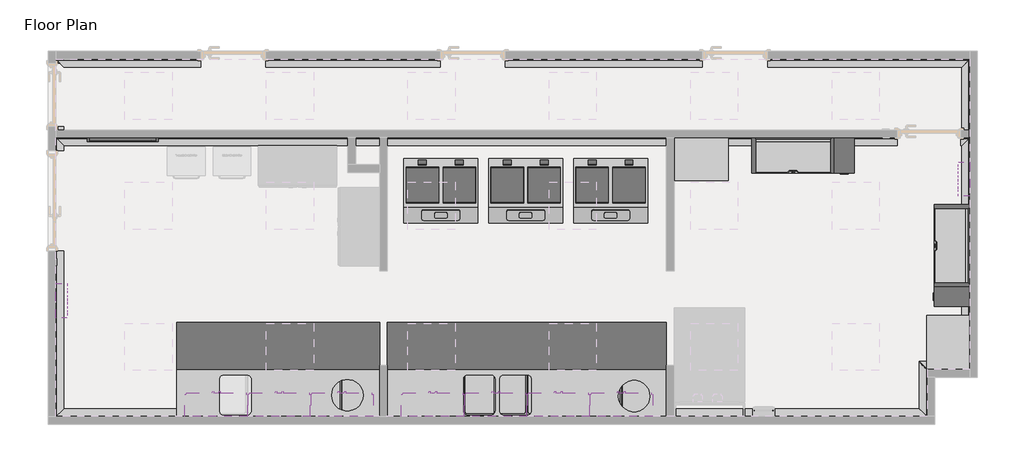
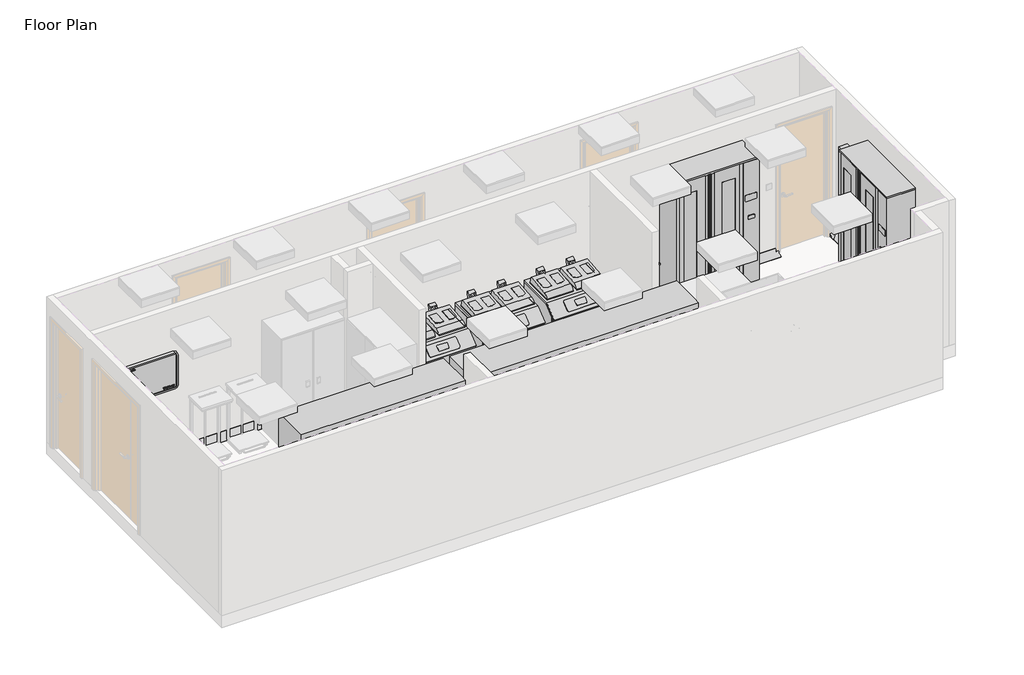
# One storey, part 2 of 2: 37 proxies.
"""IFC4 building model written with IfcOpenShell, lengths in millimetres."""

from ifc_helpers import new_model, si_unit, point, frame, frame_2d, origin, place, context, project, spatial, polyline, circle_curve, ellipse_curve, trimmed, segment, composite_curve, outline, extrude, transform, mapped, element, save
from ifc_brep_helpers import plane_surface, revolved_surface, advanced_brep
from components import generic_models_7e8e4800, generic_models_96e959f5, generic_models_4d1d25b3, generic_models_42823711, generic_models_1ffc3738, generic_models_cf329d1a, generic_models_7410f563, generic_models_fa798d0b, generic_models_1d7c5861, generic_models_08ebdc04, generic_models_c0ddf919, type_1_d860b051, type_1_565dec3e

model = new_model("IFC4")

# Units and contexts
model_context = context("Model", 3, world=origin())
ifc_project = project(units=[si_unit("LENGTHUNIT", "METRE", prefix="MILLI")], contexts=[model_context])

# Site, building, storey
site = spatial("IfcSite", under=ifc_project)
building = spatial("IfcBuilding", under=site)
storey = spatial("IfcBuildingStorey", under=building, Name="Floor Plan", Elevation=0.0)

# Proxies
placement = place(None, origin())
element("IfcBuildingElementProxy", 1, Name="Wall Sweeps", at=placement, inside=storey, context=model_context, shape_type="AdvancedBrep", body=[
    advanced_brep(
    [(4505.0, 4967.0, 0.0), (4405.0, 4867.0, 0.0), (4405.0, 4867.0, 10.0), (4495.0, 4957.0, 100.0), (4505.0, 4967.0, 100.0), (4505.0, 1015.0, 0.0), (4505.0, 1015.0, 100.0), (4495.0, 1025.0, 100.0), (4405.0, 1115.0, 10.0), (4405.0, 1115.0, 0.0)],
    [
        (0, 1),
        (1, 2),
        (2, 3, ellipse_curve(frame((4405.0, 4867.0, 100.0), z_axis=(0.7071067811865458, -0.7071067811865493, 0.0), x_axis=(-0.7071067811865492, -0.7071067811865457, 0.0)), 127.2792206, 90.0)),
        (3, 4),
        (4, 0),
        (5, 6),
        (6, 7),
        (7, 8, ellipse_curve(frame((4405.0, 1115.0, 100.0), z_axis=(0.7071067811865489, 0.7071067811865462, 0.0), x_axis=(0.7071067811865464, -0.7071067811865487, 0.0)), 127.2792206, 90.0)),
        (8, 9),
        (9, 5),
        (0, 5),
        (9, 1),
        (8, 2),
        (7, 3),
        (6, 4),
    ],
    [
        plane_surface(frame((4505.0, 4967.0, 304.8), z_axis=(-0.7071067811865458, 0.7071067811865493, 0.0), x_axis=(-0.7071067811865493, -0.7071067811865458, 0.0))),
        plane_surface(frame((4505.0, 1015.0, 304.8), z_axis=(-0.7071067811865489, -0.7071067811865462, 0.0), x_axis=(-0.7071067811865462, 0.7071067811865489, 0.0))),
        plane_surface(frame((4505.0, 4967.0, 0.0), z_axis=(0.0, 0.0, -1.0), x_axis=(0.0, -1.0, 0.0))),
        plane_surface(frame((4405.0, 4867.0, 0.0), z_axis=(-1.0, 0.0, 0.0), x_axis=(0.0, -1.0, 0.0))),
        revolved_surface(polyline([(4315.0, 1025.0, 100.0), (4315.0, 4957.0, 100.0)]), (4405.0, 4967.0, 100.0), (0.0, -1.0, 0.0)),
        plane_surface(frame((4495.0, 4957.0, 100.0), z_axis=(0.0, 0.0, 1.0), x_axis=(0.0, -1.0, 0.0))),
        plane_surface(frame((4505.0, 4967.0, 100.0), z_axis=(1.0, 0.0, 0.0), x_axis=(0.0, -1.0, 0.0))),
    ],
    [
        (0, [[1, 2, 3, 4, 5]]),
        (1, [[6, 7, 8, 9, 10]]),
        (2, [[-1, 11, -10, 12]]),
        (3, [[-2, -12, -9, 13]]),
        (4, [[-3, -13, -8, 14]]),
        (5, [[-4, -14, -7, 15]]),
        (6, [[-5, -15, -6, -11]]),
    ],
),
])
element("IfcBuildingElementProxy", 2, Name="Wall Sweeps", at=placement, inside=storey, context=model_context, shape_type="AdvancedBrep", body=[
    advanced_brep(
    [(3963.0, 415.0, 0.0), (3863.0, 515.0, 0.0), (3863.0, 515.0, 10.0), (3953.0, 425.0, 100.0), (3963.0, 415.0, 100.0), (-7124.0, 415.0, 0.0), (-7124.0, 415.0, 100.0), (-7114.0, 425.0, 100.0), (-7024.0, 515.0, 10.0), (-7024.0, 515.0, 0.0)],
    [
        (0, 1),
        (1, 2),
        (2, 3, ellipse_curve(frame((3863.0, 515.0, 100.0), z_axis=(-0.7071067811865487, -0.7071067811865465, 0.0), x_axis=(-0.7071067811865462, 0.7071067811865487, 0.0)), 127.2792206, 90.0)),
        (3, 4),
        (4, 0),
        (5, 6),
        (6, 7),
        (7, 8, ellipse_curve(frame((-7024.0, 515.0, 100.0), z_axis=(0.7071067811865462, -0.7071067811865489, 0.0), x_axis=(-0.7071067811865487, -0.7071067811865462, 0.0)), 127.2792206, 90.0)),
        (8, 9),
        (9, 5),
        (0, 5),
        (9, 1),
        (8, 2),
        (7, 3),
        (6, 4),
    ],
    [
        plane_surface(frame((3963.0, 415.0, 304.8), z_axis=(0.7071067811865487, 0.7071067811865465, 0.0), x_axis=(-0.7071067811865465, 0.7071067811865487, 0.0))),
        plane_surface(frame((-7124.0, 415.0, 304.8), z_axis=(-0.7071067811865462, 0.7071067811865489, 0.0), x_axis=(0.7071067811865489, 0.7071067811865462, 0.0))),
        plane_surface(frame((3963.0, 415.0, 0.0), z_axis=(0.0, 0.0, -1.0), x_axis=(-1.0, 0.0, 0.0))),
        plane_surface(frame((3863.0, 515.0, 0.0), z_axis=(0.0, 1.0, 0.0), x_axis=(-1.0, 0.0, 0.0))),
        revolved_surface(polyline([(-7114.0, 605.0, 100.0), (3953.0, 605.0, 100.0)]), (3963.0, 515.0, 100.0), (-1.0, 0.0, 0.0)),
        plane_surface(frame((3953.0, 425.0, 100.0), z_axis=(0.0, 0.0, 1.0), x_axis=(-1.0, 0.0, 0.0))),
        plane_surface(frame((3963.0, 415.0, 100.0), z_axis=(0.0, -1.0, 0.0), x_axis=(-1.0, 0.0, 0.0))),
    ],
    [
        (0, [[1, 2, 3, 4, 5]]),
        (1, [[6, 7, 8, 9, 10]]),
        (2, [[-1, 11, -10, 12]]),
        (3, [[-2, -12, -9, 13]]),
        (4, [[-3, -13, -8, 14]]),
        (5, [[-4, -14, -7, 15]]),
        (6, [[-5, -15, -6, -11]]),
    ],
),
])
element("IfcBuildingElementProxy", 3, Name="Wall Sweeps", at=placement, inside=storey, context=model_context, shape_type="SweptSolid", body=[
    extrude(outline(composite_curve([segment(polyline([(0.0, -7124.0), (0.0, -7024.0), (10.0, -7024.0)]), True, "CONTINUOUS"), segment(trimmed(circle_curve(frame_2d((100.0, -7024.0)), 90.0), [point((10.0, -7024.0))], [point((100.0, -7114.0))], True, "CARTESIAN"), True, "CONTINUOUS"), segment(polyline([(100.0, -7114.0), (100.0, -7124.0), (0.0, -7124.0)]), True, "CONTINUOUS")], self_intersect=False)), frame((0.0, 415.0, 0.0), z_axis=(0.0, 1.0, 0.0), x_axis=(0.0, 0.0, 1.0)), (0.0, 0.0, 1.0), 2107.0),
    extrude(outline(composite_curve([segment(polyline([(0.0, -7124.0), (0.0, -7024.0), (10.0, -7024.0)]), True, "CONTINUOUS"), segment(trimmed(circle_curve(frame_2d((100.0, -7024.0)), 90.0), [point((10.0, -7024.0))], [point((100.0, -7114.0))], True, "CARTESIAN"), True, "CONTINUOUS"), segment(polyline([(100.0, -7114.0), (100.0, -7124.0), (0.0, -7124.0)]), True, "CONTINUOUS")], self_intersect=False)), frame((0.0, 3802.0, 0.0), z_axis=(0.0, 1.0, 0.0), x_axis=(0.0, 0.0, 1.0)), (0.0, 0.0, 1.0), 305.0),
    extrude(outline(composite_curve([segment(polyline([(0.0, -7124.0), (0.0, -7024.0), (10.0, -7024.0)]), True, "CONTINUOUS"), segment(trimmed(circle_curve(frame_2d((100.0, -7024.0)), 90.0), [point((10.0, -7024.0))], [point((100.0, -7114.0))], True, "CARTESIAN"), True, "CONTINUOUS"), segment(polyline([(100.0, -7114.0), (100.0, -7124.0), (0.0, -7124.0)]), True, "CONTINUOUS")], self_intersect=False)), frame((0.0, 4917.0, 0.0), z_axis=(0.0, 1.0, 0.0), x_axis=(0.0, 0.0, 1.0)), (0.0, 0.0, 1.0), 50.0),
])
element("IfcBuildingElementProxy", 4, Name="Wall Sweeps", at=placement, inside=storey, context=model_context, shape_type="AdvancedBrep", body=[
    advanced_brep(
    [(-7124.0, 4967.0, 0.0), (-7024.0, 4867.0, 0.0), (-7024.0, 4867.0, 10.0), (-7114.0, 4957.0, 100.0), (-7124.0, 4967.0, 100.0), (-5284.0, 4967.0, 0.0), (-5284.0, 4967.0, 100.0), (-5284.0, 4957.0, 100.0), (-5284.0, 4867.0, 10.0), (-5284.0, 4867.0, 0.0)],
    [
        (0, 1),
        (1, 2),
        (2, 3, ellipse_curve(frame((-7024.0, 4867.0, 100.0), z_axis=(0.707106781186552, 0.7071067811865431, 0.0), x_axis=(0.7071067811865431, -0.707106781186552, 0.0)), 127.2792206, 90.0)),
        (3, 4),
        (4, 0),
        (5, 6),
        (6, 7),
        (7, 8, circle_curve(frame((-5284.0, 4867.0, 100.0), z_axis=(-1.0, 0.0, 0.0), x_axis=(0.0, -1.0, 0.0)), 90.0)),
        (8, 9),
        (9, 5),
        (0, 5),
        (9, 1),
        (8, 2),
        (7, 3),
        (6, 4),
    ],
    [
        plane_surface(frame((-7124.0, 4967.0, 304.8), z_axis=(-0.707106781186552, -0.7071067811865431, 0.0), x_axis=(0.7071067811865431, -0.707106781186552, 0.0))),
        plane_surface(frame((-5284.0, 4967.0, -100.4987562), z_axis=(1.0, 0.0, 0.0), x_axis=(0.0, 1.0, 0.0))),
        plane_surface(frame((-7124.0, 4967.0, 0.0), z_axis=(0.0, 0.0, -1.0), x_axis=(1.0, 0.0, 0.0))),
        plane_surface(frame((-7024.0, 4867.0, 0.0), z_axis=(0.0, -1.0, 0.0), x_axis=(1.0, 0.0, 0.0))),
        revolved_surface(polyline([(-5284.0, 4777.0, 100.0), (-7114.0, 4777.0, 100.0)]), (-7124.0, 4867.0, 100.0), (1.0, 0.0, 0.0)),
        plane_surface(frame((-7114.0, 4957.0, 100.0), z_axis=(0.0, 0.0, 1.0), x_axis=(1.0, 0.0, 0.0))),
        plane_surface(frame((-7124.0, 4967.0, 100.0), z_axis=(0.0, 1.0, 0.0), x_axis=(1.0, 0.0, 0.0))),
    ],
    [
        (0, [[1, 2, 3, 4, 5]]),
        (1, [[6, 7, 8, 9, 10]]),
        (2, [[-1, 11, -10, 12]]),
        (3, [[-2, -12, -9, 13]]),
        (4, [[-3, -13, -8, 14]]),
        (5, [[-4, -14, -7, 15]]),
        (6, [[-5, -15, -6, -11]]),
    ],
),
    advanced_brep(
    [(-4454.0, 4967.0, 0.0), (-4454.0, 4867.0, 0.0), (-4454.0, 4867.0, 10.0), (-4454.0, 4957.0, 100.0), (-4454.0, 4967.0, 100.0), (-2235.0, 4967.0, 0.0), (-2235.0, 4967.0, 100.0), (-2235.0, 4957.0, 100.0), (-2235.0, 4867.0, 10.0), (-2235.0, 4867.0, 0.0)],
    [
        (0, 1),
        (1, 2),
        (2, 3, circle_curve(frame((-4454.0, 4867.0, 100.0), z_axis=(1.0, 0.0, 0.0), x_axis=(0.0, -1.0, 0.0)), 90.0)),
        (3, 4),
        (4, 0),
        (5, 6),
        (6, 7),
        (7, 8, circle_curve(frame((-2235.0, 4867.0, 100.0), z_axis=(-1.0, 0.0, 0.0), x_axis=(0.0, -1.0, 0.0)), 90.0)),
        (8, 9),
        (9, 5),
        (0, 5),
        (9, 1),
        (8, 2),
        (7, 3),
        (6, 4),
    ],
    [
        plane_surface(frame((-4454.0, 4967.0, -100.4987562), z_axis=(-1.0, 0.0, 0.0), x_axis=(0.0, 1.0, 0.0))),
        plane_surface(frame((-2235.0, 4967.0, -100.4987562), z_axis=(1.0, 0.0, 0.0), x_axis=(0.0, 1.0, 0.0))),
        plane_surface(frame((-4454.0, 4967.0, 0.0), z_axis=(0.0, 0.0, -1.0), x_axis=(1.0, 0.0, 0.0))),
        plane_surface(frame((-4454.0, 4867.0, 0.0), z_axis=(0.0, -1.0, 0.0), x_axis=(1.0, 0.0, 0.0))),
        revolved_surface(polyline([(-2235.0, 4777.0, 100.0), (-4454.0, 4777.0, 100.0)]), (-4454.0, 4867.0, 100.0), (1.0, 0.0, 0.0)),
        plane_surface(frame((-4454.0, 4957.0, 100.0), z_axis=(0.0, 0.0, 1.0), x_axis=(1.0, 0.0, 0.0))),
        plane_surface(frame((-4454.0, 4967.0, 100.0), z_axis=(0.0, 1.0, 0.0), x_axis=(1.0, 0.0, 0.0))),
    ],
    [
        (0, [[1, 2, 3, 4, 5]]),
        (1, [[6, 7, 8, 9, 10]]),
        (2, [[-1, 11, -10, 12]]),
        (3, [[-2, -12, -9, 13]]),
        (4, [[-3, -13, -8, 14]]),
        (5, [[-4, -14, -7, 15]]),
        (6, [[-5, -15, -6, -11]]),
    ],
),
    advanced_brep(
    [(-1405.0, 4967.0, 0.0), (-1405.0, 4867.0, 0.0), (-1405.0, 4867.0, 10.0), (-1405.0, 4957.0, 100.0), (-1405.0, 4967.0, 100.0), (1105.0, 4967.0, 0.0), (1105.0, 4967.0, 100.0), (1105.0, 4957.0, 100.0), (1105.0, 4867.0, 10.0), (1105.0, 4867.0, 0.0)],
    [
        (0, 1),
        (1, 2),
        (2, 3, circle_curve(frame((-1405.0, 4867.0, 100.0), z_axis=(1.0, 0.0, 0.0), x_axis=(0.0, -1.0, 0.0)), 90.0)),
        (3, 4),
        (4, 0),
        (5, 6),
        (6, 7),
        (7, 8, circle_curve(frame((1105.0, 4867.0, 100.0), z_axis=(-1.0, 0.0, 0.0), x_axis=(0.0, -1.0, 0.0)), 90.0)),
        (8, 9),
        (9, 5),
        (0, 5),
        (9, 1),
        (8, 2),
        (7, 3),
        (6, 4),
    ],
    [
        plane_surface(frame((-1405.0, 4967.0, -100.4987562), z_axis=(-1.0, 0.0, 0.0), x_axis=(0.0, 1.0, 0.0))),
        plane_surface(frame((1105.0, 4967.0, -100.4987562), z_axis=(1.0, 0.0, 0.0), x_axis=(0.0, 1.0, 0.0))),
        plane_surface(frame((-1405.0, 4967.0, 0.0), z_axis=(0.0, 0.0, -1.0), x_axis=(1.0, 0.0, 0.0))),
        plane_surface(frame((-1405.0, 4867.0, 0.0), z_axis=(0.0, -1.0, 0.0), x_axis=(1.0, 0.0, 0.0))),
        revolved_surface(polyline([(1105.0, 4777.0, 100.0), (-1405.0, 4777.0, 100.0)]), (-1405.0, 4867.0, 100.0), (1.0, 0.0, 0.0)),
        plane_surface(frame((-1405.0, 4957.0, 100.0), z_axis=(0.0, 0.0, 1.0), x_axis=(1.0, 0.0, 0.0))),
        plane_surface(frame((-1405.0, 4967.0, 100.0), z_axis=(0.0, 1.0, 0.0), x_axis=(1.0, 0.0, 0.0))),
    ],
    [
        (0, [[1, 2, 3, 4, 5]]),
        (1, [[6, 7, 8, 9, 10]]),
        (2, [[-1, 11, -10, 12]]),
        (3, [[-2, -12, -9, 13]]),
        (4, [[-3, -13, -8, 14]]),
        (5, [[-4, -14, -7, 15]]),
        (6, [[-5, -15, -6, -11]]),
    ],
),
    advanced_brep(
    [(1935.0, 4967.0, 0.0), (1935.0, 4867.0, 0.0), (1935.0, 4867.0, 10.0), (1935.0, 4957.0, 100.0), (1935.0, 4967.0, 100.0), (4505.0, 4967.0, 0.0), (4505.0, 4967.0, 100.0), (4495.0, 4957.0, 100.0), (4405.0, 4867.0, 10.0), (4405.0, 4867.0, 0.0)],
    [
        (0, 1),
        (1, 2),
        (2, 3, circle_curve(frame((1935.0, 4867.0, 100.0), z_axis=(1.0, 0.0, 0.0), x_axis=(0.0, -1.0, 0.0)), 90.0)),
        (3, 4),
        (4, 0),
        (5, 6),
        (6, 7),
        (7, 8, ellipse_curve(frame((4405.0, 4867.0, 100.0), z_axis=(-0.7071067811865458, 0.7071067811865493, 0.0), x_axis=(0.7071067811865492, 0.7071067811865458, 0.0)), 127.2792206, 90.0)),
        (8, 9),
        (9, 5),
        (0, 5),
        (9, 1),
        (8, 2),
        (7, 3),
        (6, 4),
    ],
    [
        plane_surface(frame((1935.0, 4967.0, -100.4987562), z_axis=(-1.0, 0.0, 0.0), x_axis=(0.0, 1.0, 0.0))),
        plane_surface(frame((4505.0, 4967.0, 304.8), z_axis=(0.7071067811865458, -0.7071067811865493, 0.0), x_axis=(-0.7071067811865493, -0.7071067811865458, 0.0))),
        plane_surface(frame((1935.0, 4967.0, 0.0), z_axis=(0.0, 0.0, -1.0), x_axis=(1.0, 0.0, 0.0))),
        plane_surface(frame((1935.0, 4867.0, 0.0), z_axis=(0.0, -1.0, 0.0), x_axis=(1.0, 0.0, 0.0))),
        revolved_surface(polyline([(4495.0, 4777.0, 100.0), (1935.0, 4777.0, 100.0)]), (1935.0, 4867.0, 100.0), (1.0, 0.0, 0.0)),
        plane_surface(frame((1935.0, 4957.0, 100.0), z_axis=(0.0, 0.0, 1.0), x_axis=(1.0, 0.0, 0.0))),
        plane_surface(frame((1935.0, 4967.0, 100.0), z_axis=(0.0, 1.0, 0.0), x_axis=(1.0, 0.0, 0.0))),
    ],
    [
        (0, [[1, 2, 3, 4, 5]]),
        (1, [[6, 7, 8, 9, 10]]),
        (2, [[-1, 11, -10, 12]]),
        (3, [[-2, -12, -9, 13]]),
        (4, [[-3, -13, -8, 14]]),
        (5, [[-4, -14, -7, 15]]),
        (6, [[-5, -15, -6, -11]]),
    ],
),
])
element("IfcBuildingElementProxy", 5, Name="Wall Sweeps", at=placement, inside=storey, context=model_context, shape_type="SweptSolid", body=[
    extrude(outline(composite_curve([segment(polyline([(3967.0, 0.0), (3867.0, 0.0), (3867.0, 10.0)]), True, "CONTINUOUS"), segment(trimmed(circle_curve(frame_2d((3867.0, 100.0)), 90.0), [point((3867.0, 10.0))], [point((3957.0, 100.0))], True, "CARTESIAN"), True, "CONTINUOUS"), segment(polyline([(3957.0, 100.0), (3967.0, 100.0), (3967.0, 0.0)]), True, "CONTINUOUS")], self_intersect=False)), frame((-7124.0, 0.0, 0.0), z_axis=(1.0, 0.0, 0.0), x_axis=(0.0, 1.0, 0.0)), (0.0, 0.0, 1.0), 10709.0),
    extrude(outline(composite_curve([segment(polyline([(3967.0, 0.0), (3867.0, 0.0), (3867.0, 10.0)]), True, "CONTINUOUS"), segment(trimmed(circle_curve(frame_2d((3867.0, 100.0)), 90.0), [point((3867.0, 10.0))], [point((3957.0, 100.0))], True, "CARTESIAN"), True, "CONTINUOUS"), segment(polyline([(3957.0, 100.0), (3967.0, 100.0), (3967.0, 0.0)]), True, "CONTINUOUS")], self_intersect=False)), frame((4395.0, 0.0, 0.0), z_axis=(1.0, 0.0, 0.0), x_axis=(0.0, 1.0, 0.0)), (0.0, 0.0, 1.0), 100.0),
])
element("IfcBuildingElementProxy", 6, Name="Wall Sweeps", at=placement, inside=storey, context=model_context, shape_type="AdvancedBrep", body=[
    advanced_brep(
    [(4505.0, 1015.0, 0.0), (4405.0, 1115.0, 0.0), (4405.0, 1115.0, 10.0), (4495.0, 1025.0, 100.0), (4505.0, 1015.0, 100.0), (3963.0, 1015.0, 0.0), (3963.0, 1015.0, 100.0), (3953.0, 1025.0, 100.0), (3863.0, 1115.0, 10.0), (3863.0, 1115.0, 0.0)],
    [
        (0, 1),
        (1, 2),
        (2, 3, ellipse_curve(frame((4405.0, 1115.0, 100.0), z_axis=(-0.7071067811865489, -0.7071067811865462, 0.0), x_axis=(-0.7071067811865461, 0.7071067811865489, 0.0)), 127.2792206, 90.0)),
        (3, 4),
        (4, 0),
        (5, 6),
        (6, 7),
        (7, 8, ellipse_curve(frame((3863.0, 1115.0, 100.0), z_axis=(0.7071067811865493, 0.7071067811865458, 0.0), x_axis=(-0.7071067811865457, 0.7071067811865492, 0.0)), 127.2792206, 90.0)),
        (8, 9),
        (9, 5),
        (4, 6),
        (5, 0),
        (3, 7),
        (2, 8),
        (1, 9),
    ],
    [
        plane_surface(frame((4505.0, 1015.0, 304.8), z_axis=(0.7071067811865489, 0.7071067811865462, 0.0), x_axis=(-0.7071067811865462, 0.7071067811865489, 0.0))),
        plane_surface(frame((3963.0, 1015.0, -304.8), z_axis=(-0.7071067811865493, -0.7071067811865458, 0.0), x_axis=(0.7071067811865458, -0.7071067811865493, 0.0))),
        plane_surface(frame((4505.0, 1015.0, 100.0), z_axis=(0.0, -1.0, 0.0), x_axis=(-1.0, 0.0, 0.0))),
        plane_surface(frame((4495.0, 1025.0, 100.0), z_axis=(0.0, 0.0, 1.0), x_axis=(-1.0, 0.0, 0.0))),
        revolved_surface(polyline([(3773.0000000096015, 1205.0, 100.0), (4495.0, 1205.0, 100.0)]), (4505.0, 1115.0, 100.0), (-1.0, 0.0, 0.0)),
        plane_surface(frame((4405.0, 1115.0, 0.0), z_axis=(0.0, 1.0, 0.0), x_axis=(-1.0, 0.0, 0.0))),
        plane_surface(frame((4505.0, 1015.0, 0.0), z_axis=(0.0, 0.0, -1.0), x_axis=(-1.0, 0.0, 0.0))),
    ],
    [
        (0, [[1, 2, 3, 4, 5]]),
        (1, [[6, 7, 8, 9, 10]]),
        (2, [[-5, 11, -6, 12]]),
        (3, [[-4, 13, -7, -11]]),
        (4, [[-3, 14, -8, -13]]),
        (5, [[-2, 15, -9, -14]]),
        (6, [[-1, -12, -10, -15]]),
    ],
),
])
element("IfcBuildingElementProxy", 7, Name="Wall Sweeps", at=placement, inside=storey, context=model_context, shape_type="AdvancedBrep", body=[
    advanced_brep(
    [(3963.0, 1015.0, 0.0), (3863.0, 1115.0, 0.0), (3863.0, 1115.0, 10.0), (3953.0, 1025.0, 100.0), (3963.0, 1015.0, 100.0), (3963.0, 415.0, 0.0), (3963.0, 415.0, 100.0), (3953.0, 425.0, 100.0), (3863.0, 515.0, 10.0), (3863.0, 515.0, 0.0), (3963.0, 915.0, 0.0)],
    [
        (0, 1),
        (1, 2),
        (2, 3, ellipse_curve(frame((3863.0, 1115.0, 100.0), z_axis=(-0.7071067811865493, -0.7071067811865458, 0.0), x_axis=(0.7071067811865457, -0.7071067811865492, 0.0)), 127.2792206, 90.0)),
        (3, 4),
        (4, 0),
        (5, 6),
        (6, 7),
        (7, 8, ellipse_curve(frame((3863.0, 515.0, 100.0), z_axis=(0.7071067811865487, 0.7071067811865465, 0.0), x_axis=(0.7071067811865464, -0.7071067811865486, 0.0)), 127.2792206, 90.0)),
        (8, 9),
        (9, 5),
        (4, 6),
        (5, 10),
        (10, 0),
        (3, 7),
        (2, 8),
        (1, 9),
    ],
    [
        plane_surface(frame((3963.0, 1015.0, -304.8), z_axis=(0.7071067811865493, 0.7071067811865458, 0.0), x_axis=(0.7071067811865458, -0.7071067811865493, 0.0))),
        plane_surface(frame((3963.0, 415.0, 304.8), z_axis=(-0.7071067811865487, -0.7071067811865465, 0.0), x_axis=(-0.7071067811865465, 0.7071067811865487, 0.0))),
        plane_surface(frame((3963.0, 1015.0, 100.0), z_axis=(1.0, 0.0, 0.0), x_axis=(0.0, -1.0, 0.0))),
        plane_surface(frame((3953.0, 1025.0, 100.0), z_axis=(0.0, 0.0, 1.0), x_axis=(0.0, -1.0, 0.0))),
        revolved_surface(polyline([(3773.0, 425.0, 100.0), (3773.0, 1204.9999999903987, 100.0)]), (3863.0, 1015.0, 100.0), (0.0, -1.0, 0.0)),
        plane_surface(frame((3863.0, 1115.0, 0.0), z_axis=(-1.0, 0.0, 0.0), x_axis=(0.0, -1.0, 0.0))),
        plane_surface(frame((3963.0, 1015.0, 0.0), z_axis=(0.0, 0.0, -1.0), x_axis=(0.0, -1.0, 0.0))),
    ],
    [
        (0, [[1, 2, 3, 4, 5]]),
        (1, [[6, 7, 8, 9, 10]]),
        (2, [[-5, 11, -6, 12, 13]]),
        (3, [[-4, 14, -7, -11]]),
        (4, [[-3, 15, -8, -14]]),
        (5, [[-2, 16, -9, -15]]),
        (6, [[-1, -13, -12, -10, -16]]),
    ],
),
])
generic_models_shape = generic_models_7e8e4800(model_context)
element("IfcBuildingElementProxy", 8, Name="BIMHealth-Daniicentre_Apron_Dispenser-LOD2A-v1 : BIMHealth-Daniicentre_Apron_Dispenser-LOD2A-v1", ObjectType="BIMHealth-Daniicentre_Apron_Dispenser-LOD2A-v1 : BIMHealth-Daniicentre_Apron_Dispenser-LOD2A-v1", at=placement, inside=storey, context=model_context, shape_type="MappedRepresentation", body=[
    mapped(generic_models_shape, transform((-6979.0, 2108.7962975, 0.0), x_axis=(0.0, -1.0, 0.0), y_axis=(1.0, 0.0, 0.0), z_axis=(0.0, 0.0, 1.0))),
])
element("IfcBuildingElementProxy", 9, Name="BIMHealth-Daniicentre_Apron_Dispenser-LOD2A-v1 : BIMHealth-Daniicentre_Apron_Dispenser-LOD2A-v1", ObjectType="BIMHealth-Daniicentre_Apron_Dispenser-LOD2A-v1 : BIMHealth-Daniicentre_Apron_Dispenser-LOD2A-v1", at=placement, inside=storey, context=model_context, shape_type="MappedRepresentation", body=[
    mapped(generic_models_shape, transform((4360.0, 3221.7026442, 0.0), x_axis=(0.0, 1.0000000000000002, 0.0), y_axis=(-1.0000000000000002, 0.0, 0.0), z_axis=(0.0, 0.0, 1.0))),
])
generic_models_2_shape = generic_models_96e959f5(model_context)
element("IfcBuildingElementProxy", 10, Name="BIMHealth-Scope_Dryer_Endoscope-LOD2A-v1 : BIMHealth-Scope_Dryer_Endoscope-LOD2A-v1", ObjectType="BIMHealth-Scope_Dryer_Endoscope-LOD2A-v1 : BIMHealth-Scope_Dryer_Endoscope-LOD2A-v1", at=placement, inside=storey, context=model_context, shape_type="MappedRepresentation", body=[
    mapped(generic_models_2_shape, transform((2385.0, 3742.0, 0.0), x_axis=(-1.0, 0.0, 0.0), y_axis=(0.0, -1.0, 0.0), z_axis=(0.0, 0.0, 1.0))),
])
element("IfcBuildingElementProxy", 11, Name="BIMHealth-Scope_Dryer_Endoscope-LOD2A-v1 : BIMHealth-Scope_Dryer_Endoscope-LOD2A-v1", ObjectType="BIMHealth-Scope_Dryer_Endoscope-LOD2A-v1 : BIMHealth-Scope_Dryer_Endoscope-LOD2A-v1", at=placement, inside=storey, context=model_context, shape_type="MappedRepresentation", body=[
    mapped(generic_models_2_shape, transform((4280.0, 2466.3336446, 0.0), x_axis=(0.0, 1.0000000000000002, 0.0), y_axis=(-1.0000000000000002, 0.0, 0.0), z_axis=(0.0, 0.0, 1.0))),
])
generic_models_3_shape = generic_models_4d1d25b3(model_context)
element("IfcBuildingElementProxy", 12, Name="BIMHealth-400x600mm_Base_Unit_with_drawer_lockable-LOD2A-v1 : BIMHealth-400x600mm_Base_Unit_with_drawer_lockable-LOD2A-v1", ObjectType="BIMHealth-400x600mm_Base_Unit_with_drawer_lockable-LOD2A-v1 : BIMHealth-400x600mm_Base_Unit_with_drawer_lockable-LOD2A-v1", at=placement, inside=storey, context=model_context, shape_type="MappedRepresentation", body=[
    mapped(generic_models_3_shape, transform((-3495.0, 433.0, 0.0), x_axis=(-1.0, 0.0, 0.0), y_axis=(0.0, -1.0, 0.0), z_axis=(0.0, 0.0, 1.0))),
])
element("IfcBuildingElementProxy", 13, Name="BIMHealth-400x600mm_Base_Unit_with_drawer_lockable-LOD2A-v1 : BIMHealth-400x600mm_Base_Unit_with_drawer_lockable-LOD2A-v1", ObjectType="BIMHealth-400x600mm_Base_Unit_with_drawer_lockable-LOD2A-v1 : BIMHealth-400x600mm_Base_Unit_with_drawer_lockable-LOD2A-v1", at=placement, inside=storey, context=model_context, shape_type="MappedRepresentation", body=[
    mapped(generic_models_3_shape, transform((70.0, 433.0, 0.0), x_axis=(-1.0, 0.0, 0.0), y_axis=(0.0, -1.0, 0.0), z_axis=(0.0, 0.0, 1.0))),
])
generic_models_4_shape = generic_models_42823711(model_context)
element("IfcBuildingElementProxy", 14, Name="BIMHealth-400x600mm_Base_Unit_Lockable-LOD2A-v1 : BIMHealth-400x600mm_Base_Unit_Lockable-LOD2A-v1", ObjectType="BIMHealth-400x600mm_Base_Unit_Lockable-LOD2A-v1 : BIMHealth-400x600mm_Base_Unit_Lockable-LOD2A-v1", at=placement, inside=storey, context=model_context, shape_type="MappedRepresentation", body=[
    mapped(generic_models_4_shape, transform((-3095.0, 433.0, 0.0), x_axis=(-1.0, 0.0, 0.0), y_axis=(0.0, -1.0, 0.0), z_axis=(0.0, 0.0, 1.0))),
])
element("IfcBuildingElementProxy", 15, Name="BIMHealth-400x600mm_Base_Unit_Lockable-LOD2A-v1 : BIMHealth-400x600mm_Base_Unit_Lockable-LOD2A-v1", ObjectType="BIMHealth-400x600mm_Base_Unit_Lockable-LOD2A-v1 : BIMHealth-400x600mm_Base_Unit_Lockable-LOD2A-v1", at=placement, inside=storey, context=model_context, shape_type="MappedRepresentation", body=[
    mapped(generic_models_4_shape, transform((-1530.0, 433.0, 0.0), x_axis=(-1.0, 0.0, 0.0), y_axis=(0.0, -1.0, 0.0), z_axis=(0.0, 0.0, 1.0))),
])
element("IfcBuildingElementProxy", 16, Name="BIMHealth-400x600mm_Base_Unit_Lockable-LOD2A-v1 : BIMHealth-400x600mm_Base_Unit_Lockable-LOD2A-v1", ObjectType="BIMHealth-400x600mm_Base_Unit_Lockable-LOD2A-v1 : BIMHealth-400x600mm_Base_Unit_Lockable-LOD2A-v1", at=placement, inside=storey, context=model_context, shape_type="MappedRepresentation", body=[
    mapped(generic_models_4_shape, transform((-730.0, 433.0, 0.0), x_axis=(-1.0, 0.0, 0.0), y_axis=(0.0, -1.0, 0.0), z_axis=(0.0, 0.0, 1.0))),
])
element("IfcBuildingElementProxy", 17, Name="BIMHealth-400x600mm_Base_Unit_Lockable-LOD2A-v1 : BIMHealth-400x600mm_Base_Unit_Lockable-LOD2A-v1", ObjectType="BIMHealth-400x600mm_Base_Unit_Lockable-LOD2A-v1 : BIMHealth-400x600mm_Base_Unit_Lockable-LOD2A-v1", at=placement, inside=storey, context=model_context, shape_type="MappedRepresentation", body=[
    mapped(generic_models_4_shape, transform((470.0, 433.0, 0.0), x_axis=(-1.0, 0.0, 0.0), y_axis=(0.0, -1.0, 0.0), z_axis=(0.0, 0.0, 1.0))),
])
generic_models_5_shape = generic_models_1ffc3738(model_context)
element("IfcBuildingElementProxy", 18, Name="BIMHealth-400x600mm_Base_Unit_with_drawer_lockable-LOD2A-v1 : BIMHealth-400x600mm_Base_Unit_with_drawer_lockable-LOD2A-v1", ObjectType="BIMHealth-400x600mm_Base_Unit_with_drawer_lockable-LOD2A-v1 : BIMHealth-400x600mm_Base_Unit_with_drawer_lockable-LOD2A-v1", at=placement, inside=storey, context=model_context, shape_type="MappedRepresentation", body=[
    mapped(generic_models_5_shape, transform((-4295.0, 433.0, 0.0), x_axis=(1.0, 0.0, 0.0), y_axis=(0.0, 1.0, 0.0), z_axis=(0.0, 0.0, 1.0))),
])
element("IfcBuildingElementProxy", 19, Name="BIMHealth-400x600mm_Base_Unit_with_drawer_lockable-LOD2A-v1 : BIMHealth-400x600mm_Base_Unit_with_drawer_lockable-LOD2A-v1", ObjectType="BIMHealth-400x600mm_Base_Unit_with_drawer_lockable-LOD2A-v1 : BIMHealth-400x600mm_Base_Unit_with_drawer_lockable-LOD2A-v1", at=placement, inside=storey, context=model_context, shape_type="MappedRepresentation", body=[
    mapped(generic_models_5_shape, transform((-2730.0, 433.0, 0.0), x_axis=(1.0, 0.0, 0.0), y_axis=(0.0, 1.0, 0.0), z_axis=(0.0, 0.0, 1.0))),
])
element("IfcBuildingElementProxy", 20, Name="BIMHealth-400x600mm_Base_Unit_with_drawer_lockable-LOD2A-v1 : BIMHealth-400x600mm_Base_Unit_with_drawer_lockable-LOD2A-v1", ObjectType="BIMHealth-400x600mm_Base_Unit_with_drawer_lockable-LOD2A-v1 : BIMHealth-400x600mm_Base_Unit_with_drawer_lockable-LOD2A-v1", at=placement, inside=storey, context=model_context, shape_type="MappedRepresentation", body=[
    mapped(generic_models_5_shape, transform((-730.0, 433.0, 0.0), x_axis=(1.0, 0.0, 0.0), y_axis=(0.0, 1.0, 0.0), z_axis=(0.0, 0.0, 1.0))),
])
generic_models_6_shape = generic_models_cf329d1a(model_context)
element("IfcBuildingElementProxy", 21, Name="BIMHealth-400x600mm_Base_Unit_Lockable-LOD2A-v1 : BIMHealth-400x600mm_Base_Unit_Lockable-LOD2A-v1", ObjectType="BIMHealth-400x600mm_Base_Unit_Lockable-LOD2A-v1 : BIMHealth-400x600mm_Base_Unit_Lockable-LOD2A-v1", at=placement, inside=storey, context=model_context, shape_type="MappedRepresentation", body=[
    mapped(generic_models_6_shape, transform((-2330.0, 433.0, 0.0), x_axis=(1.0, 0.0, 0.0), y_axis=(0.0, 1.0, 0.0), z_axis=(0.0, 0.0, 1.0))),
])
element("IfcBuildingElementProxy", 22, Name="BIMHealth-400x600mm_Base_Unit_Lockable-LOD2A-v1 : BIMHealth-400x600mm_Base_Unit_Lockable-LOD2A-v1", ObjectType="BIMHealth-400x600mm_Base_Unit_Lockable-LOD2A-v1 : BIMHealth-400x600mm_Base_Unit_Lockable-LOD2A-v1", at=placement, inside=storey, context=model_context, shape_type="MappedRepresentation", body=[
    mapped(generic_models_6_shape, transform((-1530.0, 433.0, 0.0), x_axis=(1.0, 0.0, 0.0), y_axis=(0.0, 1.0, 0.0), z_axis=(0.0, 0.0, 1.0))),
])
generic_models_7_shape = generic_models_7410f563(model_context)
element("IfcBuildingElementProxy", 23, Name="BIMHealth-300x600mm_Wall_Unit_Lockable-LOD2A-v1 : BIMHealth-300x600mm_Wall_Unit_Lockable-LOD2A-v1", ObjectType="BIMHealth-300x600mm_Wall_Unit_Lockable-LOD2A-v1 : BIMHealth-300x600mm_Wall_Unit_Lockable-LOD2A-v1", at=placement, inside=storey, context=model_context, shape_type="MappedRepresentation", body=[
    mapped(generic_models_7_shape, transform((371.1880712, 415.0, 0.0), x_axis=(-1.0, 0.0, 0.0), y_axis=(0.0, -1.0, 0.0), z_axis=(0.0, 0.0, 1.0))),
])
element("IfcBuildingElementProxy", 24, Name="BIMHealth-300x600mm_Wall_Unit_Lockable-LOD2A-v1 : BIMHealth-300x600mm_Wall_Unit_Lockable-LOD2A-v1", ObjectType="BIMHealth-300x600mm_Wall_Unit_Lockable-LOD2A-v1 : BIMHealth-300x600mm_Wall_Unit_Lockable-LOD2A-v1", at=placement, inside=storey, context=model_context, shape_type="MappedRepresentation", body=[
    mapped(generic_models_7_shape, transform((-428.752816, 415.0, 0.0), x_axis=(-1.0, 0.0, 0.0), y_axis=(0.0, -1.0, 0.0), z_axis=(0.0, 0.0, 1.0))),
])
element("IfcBuildingElementProxy", 25, Name="BIMHealth-300x600mm_Wall_Unit_Lockable-LOD2A-v1 : BIMHealth-300x600mm_Wall_Unit_Lockable-LOD2A-v1", ObjectType="BIMHealth-300x600mm_Wall_Unit_Lockable-LOD2A-v1 : BIMHealth-300x600mm_Wall_Unit_Lockable-LOD2A-v1", at=placement, inside=storey, context=model_context, shape_type="MappedRepresentation", body=[
    mapped(generic_models_7_shape, transform((-1227.5351885, 415.0, 0.0), x_axis=(-1.0, 0.0, 0.0), y_axis=(0.0, -1.0, 0.0), z_axis=(0.0, 0.0, 1.0))),
])
element("IfcBuildingElementProxy", 26, Name="BIMHealth-300x600mm_Wall_Unit_Lockable-LOD2A-v1 : BIMHealth-300x600mm_Wall_Unit_Lockable-LOD2A-v1", ObjectType="BIMHealth-300x600mm_Wall_Unit_Lockable-LOD2A-v1 : BIMHealth-300x600mm_Wall_Unit_Lockable-LOD2A-v1", at=placement, inside=storey, context=model_context, shape_type="MappedRepresentation", body=[
    mapped(generic_models_7_shape, transform((-2027.4760757, 415.0, 0.0), x_axis=(-1.0, 0.0, 0.0), y_axis=(0.0, -1.0, 0.0), z_axis=(0.0, 0.0, 1.0))),
])
element("IfcBuildingElementProxy", 27, Name="BIMHealth-300x600mm_Wall_Unit_Lockable-LOD2A-v1 : BIMHealth-300x600mm_Wall_Unit_Lockable-LOD2A-v1", ObjectType="BIMHealth-300x600mm_Wall_Unit_Lockable-LOD2A-v1 : BIMHealth-300x600mm_Wall_Unit_Lockable-LOD2A-v1", at=placement, inside=storey, context=model_context, shape_type="MappedRepresentation", body=[
    mapped(generic_models_7_shape, transform((-3184.9704436, 415.0, 0.0), x_axis=(-1.0, 0.0, 0.0), y_axis=(0.0, -1.0, 0.0), z_axis=(0.0, 0.0, 1.0))),
])
element("IfcBuildingElementProxy", 28, Name="BIMHealth-300x600mm_Wall_Unit_Lockable-LOD2A-v1 : BIMHealth-300x600mm_Wall_Unit_Lockable-LOD2A-v1", ObjectType="BIMHealth-300x600mm_Wall_Unit_Lockable-LOD2A-v1 : BIMHealth-300x600mm_Wall_Unit_Lockable-LOD2A-v1", at=placement, inside=storey, context=model_context, shape_type="MappedRepresentation", body=[
    mapped(generic_models_7_shape, transform((-3983.752816, 415.0, 0.0), x_axis=(-1.0, 0.0, 0.0), y_axis=(0.0, -1.0, 0.0), z_axis=(0.0, 0.0, 1.0))),
])
element("IfcBuildingElementProxy", 29, Name="BIMHealth-300x600mm_Wall_Unit_Lockable-LOD2A-v1 : BIMHealth-300x600mm_Wall_Unit_Lockable-LOD2A-v1", ObjectType="BIMHealth-300x600mm_Wall_Unit_Lockable-LOD2A-v1 : BIMHealth-300x600mm_Wall_Unit_Lockable-LOD2A-v1", at=placement, inside=storey, context=model_context, shape_type="MappedRepresentation", body=[
    mapped(generic_models_7_shape, transform((-4783.6937033, 415.0, 0.0), x_axis=(-1.0, 0.0, 0.0), y_axis=(0.0, -1.0, 0.0), z_axis=(0.0, 0.0, 1.0))),
])
generic_models_8_shape = generic_models_fa798d0b(model_context)
generic_models_9_shape = generic_models_1d7c5861(model_context)
element("IfcBuildingElementProxy", 30, Name="BIMHealth-Endoscope_Washer_Disinfector-LOD2A-v1 : BIMHealth-Endoscope_Washer_Disinfector-LOD2A-v1", ObjectType="BIMHealth-Endoscope_Washer_Disinfector-LOD2A-v1 : BIMHealth-Endoscope_Washer_Disinfector-LOD2A-v1", at=placement, inside=storey, context=model_context, shape_type="MappedRepresentation", body=[
    mapped(generic_models_8_shape, transform((-2225.0, 3326.0, 0.0), x_axis=(1.0, 0.0, 0.0), y_axis=(0.0, 1.0, 0.0), z_axis=(0.0, 0.0, 1.0))),
    mapped(generic_models_9_shape, transform((-2225.0, 3326.0, 0.0), x_axis=(1.0, 0.0, 0.0), y_axis=(0.0, 1.0, 0.0), z_axis=(0.0, 0.0, 1.0))),
])
element("IfcBuildingElementProxy", 31, Name="BIMHealth-Endoscope_Washer_Disinfector-LOD2A-v1 : BIMHealth-Endoscope_Washer_Disinfector-LOD2A-v1", ObjectType="BIMHealth-Endoscope_Washer_Disinfector-LOD2A-v1 : BIMHealth-Endoscope_Washer_Disinfector-LOD2A-v1", at=placement, inside=storey, context=model_context, shape_type="MappedRepresentation", body=[
    mapped(generic_models_8_shape, transform((-1145.0, 3326.0, 0.0), x_axis=(1.0, 0.0, 0.0), y_axis=(0.0, 1.0, 0.0), z_axis=(0.0, 0.0, 1.0))),
    mapped(generic_models_9_shape, transform((-1145.0, 3326.0, 0.0), x_axis=(1.0, 0.0, 0.0), y_axis=(0.0, 1.0, 0.0), z_axis=(0.0, 0.0, 1.0))),
])
element("IfcBuildingElementProxy", 32, Name="BIMHealth-Endoscope_Washer_Disinfector-LOD2A-v1 : BIMHealth-Endoscope_Washer_Disinfector-LOD2A-v1", ObjectType="BIMHealth-Endoscope_Washer_Disinfector-LOD2A-v1 : BIMHealth-Endoscope_Washer_Disinfector-LOD2A-v1", at=placement, inside=storey, context=model_context, shape_type="MappedRepresentation", body=[
    mapped(generic_models_8_shape, transform((-65.0, 3326.0, 0.0), x_axis=(1.0, 0.0, 0.0), y_axis=(0.0, 1.0, 0.0), z_axis=(0.0, 0.0, 1.0))),
    mapped(generic_models_9_shape, transform((-65.0, 3326.0, 0.0), x_axis=(1.0, 0.0, 0.0), y_axis=(0.0, 1.0, 0.0), z_axis=(0.0, 0.0, 1.0))),
])
generic_models_10_shape = generic_models_08ebdc04(model_context)
element("IfcBuildingElementProxy", 33, Name="BIMHealth-Worktop_Endoscope-LOD2A-v1 : BIMHealth-Worktop_Endoscope-LOD2A-v1", ObjectType="BIMHealth-Worktop_Endoscope-LOD2A-v1 : BIMHealth-Worktop_Endoscope-LOD2A-v1", at=placement, inside=storey, context=model_context, shape_type="MappedRepresentation", body=[
    mapped(generic_models_10_shape, transform((645.0, 415.0, 0.0), x_axis=(-1.0, 0.0, 0.0), y_axis=(0.0, -1.0, 0.0), z_axis=(0.0, 0.0, 1.0))),
])
generic_models_11_shape = generic_models_c0ddf919(model_context)
element("IfcBuildingElementProxy", 34, Name="BIMHealth-Worktop_Endoscope_Smaller-LOD2A-v1 : BIMHealth-Worktop_Endoscope_Smaller-LOD2A-v1", ObjectType="BIMHealth-Worktop_Endoscope_Smaller-LOD2A-v1 : BIMHealth-Worktop_Endoscope_Smaller-LOD2A-v1", at=placement, inside=storey, context=model_context, shape_type="MappedRepresentation", body=[
    mapped(generic_models_11_shape, transform((-3005.0, 415.0, 0.0), x_axis=(-1.0, 0.0, 0.0), y_axis=(0.0, -1.0, 0.0), z_axis=(0.0, 0.0, 1.0))),
])
type_1_shape = type_1_d860b051(model_context)
element("IfcBuildingElementProxy", 35, Name="BIMHealth-Printer_Shelf-LOD2A-v1 : Type 1", ObjectType="BIMHealth-Printer_Shelf-LOD2A-v1 : Type 1", at=placement, inside=storey, context=model_context, shape_type="MappedRepresentation", body=[
    mapped(type_1_shape, transform((1215.0, 4017.0, 0.0), x_axis=(-1.0, 0.0, 0.0), y_axis=(0.0, -1.0, 0.0), z_axis=(0.0, 0.0, 1.0))),
])
element("IfcBuildingElementProxy", 36, Name="BIMHealth-Printer_Shelf-LOD2A-v1 : Type 1", ObjectType="BIMHealth-Printer_Shelf-LOD2A-v1 : Type 1", at=placement, inside=storey, context=model_context, shape_type="MappedRepresentation", body=[
    mapped(type_1_shape, transform((4555.0, 1235.0, 0.0), x_axis=(0.0, 1.0, 0.0), y_axis=(-1.0, 0.0, 0.0), z_axis=(0.0, 0.0, 1.0))),
])
type_1_2_shape = type_1_565dec3e(model_context)
element("IfcBuildingElementProxy", 37, Name="BIMHealth-Whiteboard-LOD2A-v1 : Type 1", ObjectType="BIMHealth-Whiteboard-LOD2A-v1 : Type 1", at=placement, inside=storey, context=model_context, shape_type="MappedRepresentation", body=[
    mapped(type_1_2_shape, transform((-6149.0, 4017.0, 0.0), x_axis=(-1.0, 0.0, 0.0), y_axis=(0.0, -1.0, 0.0), z_axis=(0.0, 0.0, 1.0))),
])

save(model, "model.ifc")
